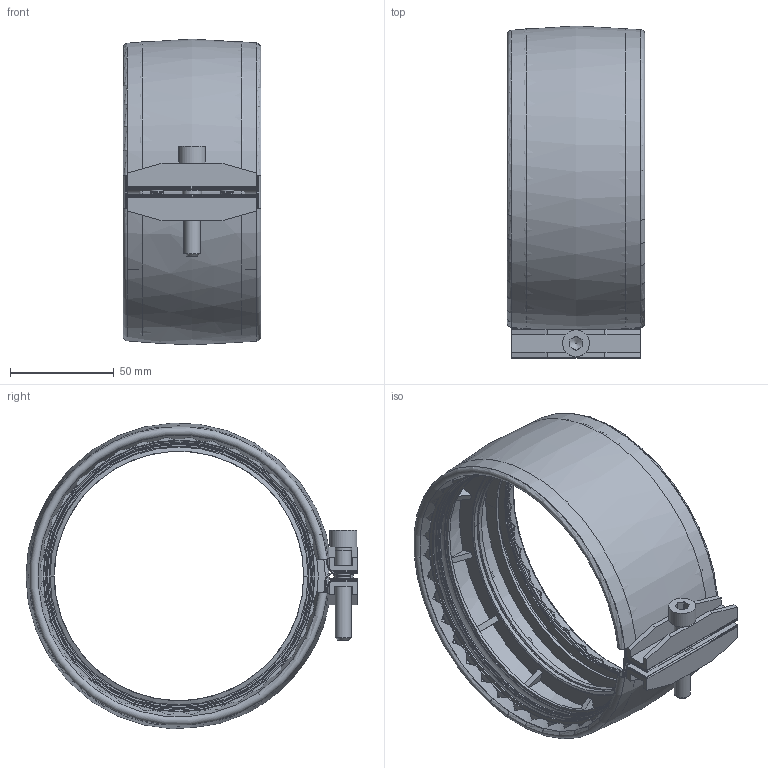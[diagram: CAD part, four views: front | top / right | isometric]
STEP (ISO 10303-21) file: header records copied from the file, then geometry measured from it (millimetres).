
FILE_DESCRIPTION(/* description */ (''),/* implementation_level */ '2;1');
FILE_NAME(/* name */ 'H:\Geberit-Teile\Export\Spannverbinder_neu\stp\312003.stp',/* time_stamp */ '2017-09-20T09:29:08+02:00',/* author */ ('seihe2'),/* organization */ (''),/* preprocessor_version */ 'ST-DEVELOPER v15.2',/* originating_system */ 'Autodesk Inventor 2014',/* authorisation */ '');
FILE_SCHEMA (('AUTOMOTIVE_DESIGN { 1 0 10303 214 3 1 1 }'));
Length unit declared in the file: millimetre
Products named in the file (1): 312003
Bounding box: 66.4 x 160.33 x 147.6 mm (x, y, z)
Volume: 128424.8 mm3; surface area: 172743.3 mm2
Topology: 5 solids, 5 shells, 485 faces, 1378 edges, 914 vertices
Faces by surface type: plane 295, bspline 83, cylinder 69, torus 21, cone 17
Full cylindrical faces by diameter (mm): 5.5 x2, 6.5 x4, 6.647 x1, 7.805 x1, 8 x1, 9.3 x1, 10.4 x4, 13 x1, 121.614 x1, 127.111 x2, 128.086 x2, 130.666 x4, 137.585 x2, 141.391 x2, 145 x1
Entity records: 18561 total; most frequent: CARTESIAN_POINT 5804, ORIENTED_EDGE 2632, DIRECTION 2555, EDGE_CURVE 1316, AXIS2_PLACEMENT_3D 1038, VERTEX_POINT 899, EDGE_LOOP 561, STYLED_ITEM 490
